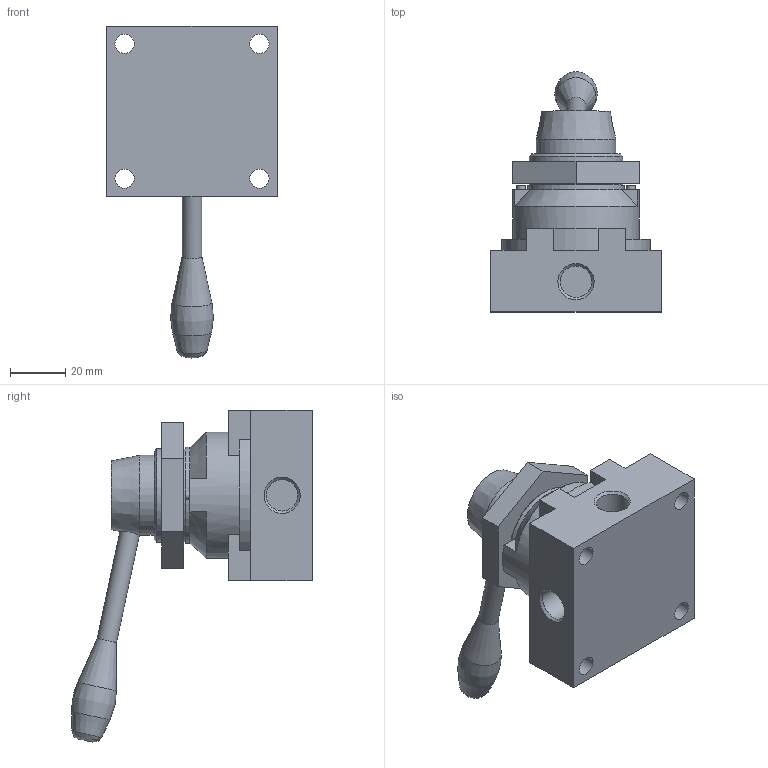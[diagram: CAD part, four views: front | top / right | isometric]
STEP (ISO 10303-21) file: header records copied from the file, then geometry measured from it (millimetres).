
FILE_DESCRIPTION(/* description */ ('STEP AP214'),/* implementation_level */ '2;1');
FILE_NAME(/* name */ '84-4HV-14-520-S.stp',/* time_stamp */ '2026-01-12T11:54:19+01:00',/* author */ ('Tschernatsch'),/* organization */ ('CADENAS'),/* preprocessor_version */ 'ST-DEVELOPER v20',/* originating_system */ 'Autodesk Inventor 2024',/* authorisation */ ' ');
FILE_SCHEMA (('AUTOMOTIVE_DESIGN { 1 0 10303 214 3 1 1 }'));
Length unit declared in the file: millimetre
Products named in the file (1): 4HV210-08-S
Bounding box: 62 x 87.53 x 120.7 mm (x, y, z)
Volume: 154814.8 mm3; surface area: 26987.1 mm2
Topology: 1 solids, 1 shells, 77 faces, 183 edges, 119 vertices
Faces by surface type: plane 45, cylinder 20, cone 10, bspline 2
Full cylindrical faces by diameter (mm): 3 x2, 7 x4, 7.2 x1, 11.445 x4, 29 x1, 34 x2, 35 x1, 46 x1
Entity records: 2373 total; most frequent: CARTESIAN_POINT 477, DIRECTION 396, ORIENTED_EDGE 366, EDGE_CURVE 183, AXIS2_PLACEMENT_3D 143, VERTEX_POINT 119, LINE 110, VECTOR 110
